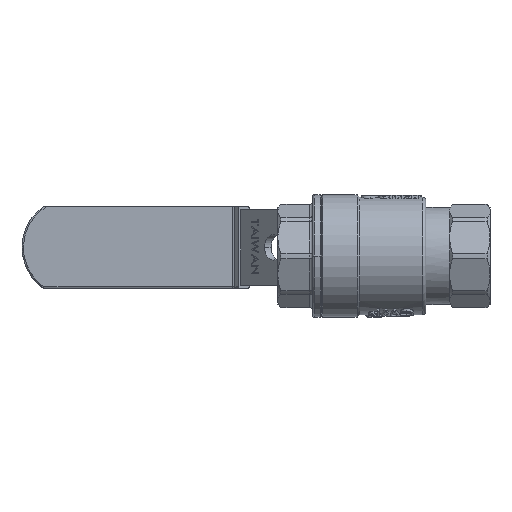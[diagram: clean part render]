
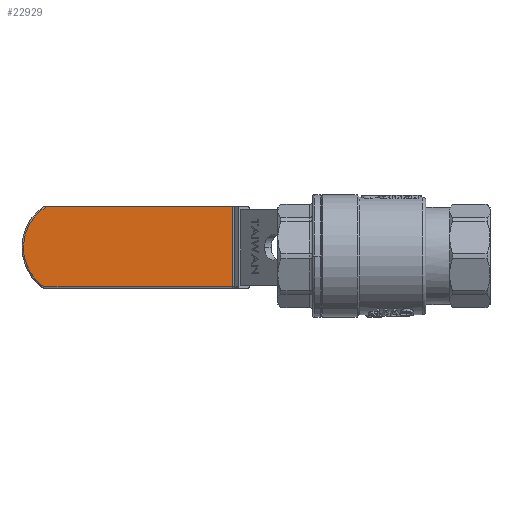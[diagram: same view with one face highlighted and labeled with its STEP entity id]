
A CAD part, front view. The second image highlights one B-rep face of the part: STEP entity #22929.
In plain terms, the highlighted planar face has unit normal (0, -1, 0).
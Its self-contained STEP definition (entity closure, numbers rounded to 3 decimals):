
#2888 = DIRECTION ( 'NONE',  ( 0., 1., 0. ) ) ;
#6065 = CARTESIAN_POINT ( 'NONE',  ( 113.659, 20.5, 13.15 ) ) ;
#7784 = EDGE_CURVE ( 'NONE', #54037, #67215, #61849, .T. ) ;
#7869 = DIRECTION ( 'NONE',  ( 0., 0., -1. ) ) ;
#12169 = EDGE_CURVE ( 'NONE', #80343, #52711, #62158, .T. ) ;
#17243 = EDGE_LOOP ( 'NONE', ( #73193, #19556, #77546, #63338 ) ) ;
#17588 = AXIS2_PLACEMENT_3D ( 'NONE', #46152, #47289, #33213 ) ;
#19556 = ORIENTED_EDGE ( 'NONE', *, *, #84561, .T. ) ;
#22929 = ADVANCED_FACE ( 'NONE', ( #56351 ), #35405, .F. ) ;
#27121 = DIRECTION ( 'NONE',  ( -1., 0., 0. ) ) ;
#29349 = DIRECTION ( 'NONE',  ( 0., 0., 1. ) ) ;
#30999 = VECTOR ( 'NONE', #62698, 1000. ) ;
#31356 = VECTOR ( 'NONE', #27121, 1000. ) ;
#32674 = VECTOR ( 'NONE', #7869, 1000. ) ;
#33213 = DIRECTION ( 'NONE',  ( 0., 0., 1. ) ) ;
#34046 = CARTESIAN_POINT ( 'NONE',  ( 50.456, 20.5, 12.65 ) ) ;
#35405 = PLANE ( 'NONE',  #62644 ) ;
#43151 = CARTESIAN_POINT ( 'NONE',  ( 50.456, 20.5, 13.15 ) ) ;
#46152 = CARTESIAN_POINT ( 'NONE',  ( 104.441, 20.5, 0. ) ) ;
#47289 = DIRECTION ( 'NONE',  ( 0., -1., 0. ) ) ;
#48674 = CARTESIAN_POINT ( 'NONE',  ( 49.6, 20.5, -13.65 ) ) ;
#52711 = VERTEX_POINT ( 'NONE', #43151 ) ;
#54037 = VERTEX_POINT ( 'NONE', #60332 ) ;
#56081 = EDGE_CURVE ( 'NONE', #52711, #54037, #75914, .T. ) ;
#56351 = FACE_OUTER_BOUND ( 'NONE', #17243, .T. ) ;
#60332 = CARTESIAN_POINT ( 'NONE',  ( 50.456, 20.5, -13.65 ) ) ;
#61849 = LINE ( 'NONE', #48674, #30999 ) ;
#62158 = LINE ( 'NONE', #72594, #31356 ) ;
#62644 = AXIS2_PLACEMENT_3D ( 'NONE', #74812, #2888, #29349 ) ;
#62698 = DIRECTION ( 'NONE',  ( 1., 0., 0. ) ) ;
#63338 = ORIENTED_EDGE ( 'NONE', *, *, #56081, .T. ) ;
#64443 = CARTESIAN_POINT ( 'NONE',  ( 112.901, 20.5, -13.65 ) ) ;
#67215 = VERTEX_POINT ( 'NONE', #64443 ) ;
#72594 = CARTESIAN_POINT ( 'NONE',  ( 50.456, 20.5, 13.15 ) ) ;
#73193 = ORIENTED_EDGE ( 'NONE', *, *, #7784, .T. ) ;
#74812 = CARTESIAN_POINT ( 'NONE',  ( 49.6, 20.5, 12.65 ) ) ;
#75914 = LINE ( 'NONE', #34046, #32674 ) ;
#77546 = ORIENTED_EDGE ( 'NONE', *, *, #12169, .T. ) ;
#80343 = VERTEX_POINT ( 'NONE', #6065 ) ;
#82454 = CIRCLE ( 'NONE', #17588, 16.059 ) ;
#84561 = EDGE_CURVE ( 'NONE', #67215, #80343, #82454, .T. ) ;
